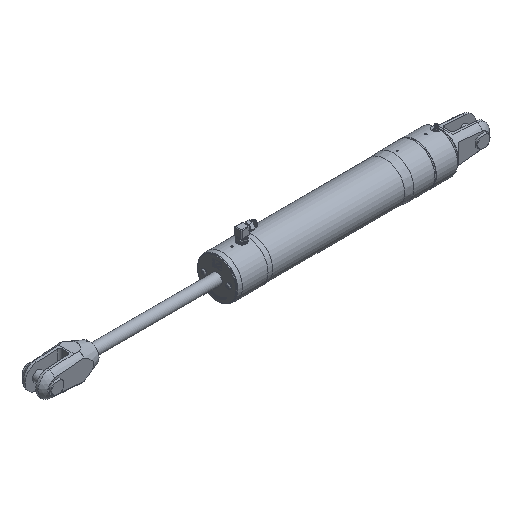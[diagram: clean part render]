
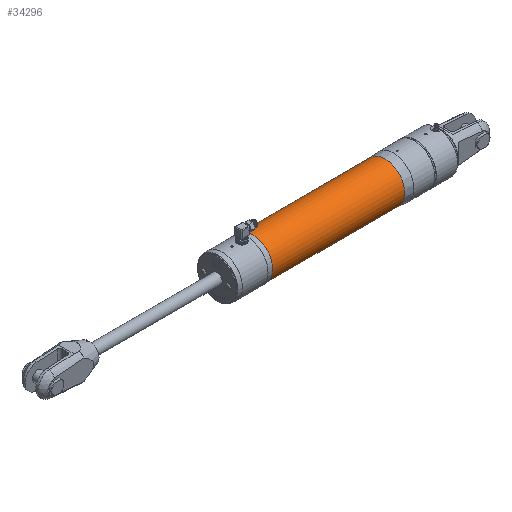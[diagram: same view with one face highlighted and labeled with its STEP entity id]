
A CAD part, isometric view. The second image highlights one B-rep face of the part: STEP entity #34296.
In plain terms, the highlighted cylindrical face has radius 66.7 mm (diameter 133.4 mm), a full revolution.
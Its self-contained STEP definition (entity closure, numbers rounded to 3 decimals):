
#4814=LINE('',#62093,#7783);
#7783=VECTOR('',#41440,66.7);
#8088=CYLINDRICAL_SURFACE('',#35802,66.7);
#11463=FACE_OUTER_BOUND('',#13395,.T.);
#13395=EDGE_LOOP('',(#30545,#30546,#30547,#30548,#30549,#30550));
#13901=CIRCLE('',#35799,66.7);
#13902=CIRCLE('',#35800,66.7);
#13904=CIRCLE('',#35803,66.7);
#13905=CIRCLE('',#35804,66.7);
#16917=VERTEX_POINT('',#62085);
#16918=VERTEX_POINT('',#62087);
#16919=VERTEX_POINT('',#62092);
#16920=VERTEX_POINT('',#62094);
#21522=EDGE_CURVE('',#16918,#16917,#13901,.T.);
#21523=EDGE_CURVE('',#16917,#16918,#13902,.T.);
#21525=EDGE_CURVE('',#16917,#16919,#4814,.T.);
#21526=EDGE_CURVE('',#16920,#16919,#13904,.T.);
#21527=EDGE_CURVE('',#16919,#16920,#13905,.T.);
#30545=ORIENTED_EDGE('',*,*,#21522,.T.);
#30546=ORIENTED_EDGE('',*,*,#21525,.T.);
#30547=ORIENTED_EDGE('',*,*,#21526,.F.);
#30548=ORIENTED_EDGE('',*,*,#21527,.F.);
#30549=ORIENTED_EDGE('',*,*,#21525,.F.);
#30550=ORIENTED_EDGE('',*,*,#21523,.T.);
#34296=ADVANCED_FACE('',(#11463),#8088,.T.);
#35799=AXIS2_PLACEMENT_3D('',#62088,#41432,#41433);
#35800=AXIS2_PLACEMENT_3D('',#62089,#41434,#41435);
#35802=AXIS2_PLACEMENT_3D('',#62091,#41438,#41439);
#35803=AXIS2_PLACEMENT_3D('',#62095,#41441,#41442);
#35804=AXIS2_PLACEMENT_3D('',#62096,#41443,#41444);
#41432=DIRECTION('center_axis',(1.,0.,0.));
#41433=DIRECTION('ref_axis',(0.,0.,
-1.));
#41434=DIRECTION('center_axis',(1.,0.,0.));
#41435=DIRECTION('ref_axis',(0.,0.,
-1.));
#41438=DIRECTION('center_axis',(1.,0.,0.));
#41439=DIRECTION('ref_axis',(0.,0.,
1.));
#41440=DIRECTION('',(1.,0.,0.));
#41441=DIRECTION('center_axis',(1.,0.,0.));
#41442=DIRECTION('ref_axis',(0.,0.,
-1.));
#41443=DIRECTION('center_axis',(1.,0.,0.));
#41444=DIRECTION('ref_axis',(0.,0.,
-1.));
#62085=CARTESIAN_POINT('',(-531.234,0.,-66.7));
#62087=CARTESIAN_POINT('',(-531.234,0.,66.7));
#62088=CARTESIAN_POINT('Origin',(-531.234,0.,
0.));
#62089=CARTESIAN_POINT('Origin',(-531.234,0.,
0.));
#62091=CARTESIAN_POINT('Origin',(-310.274,0.,
0.));
#62092=CARTESIAN_POINT('',(-89.313,0.,-66.7));
#62093=CARTESIAN_POINT('',(-310.274,0.,-66.7));
#62094=CARTESIAN_POINT('',(-89.313,0.,66.7));
#62095=CARTESIAN_POINT('Origin',(-89.313,0.,
0.));
#62096=CARTESIAN_POINT('Origin',(-89.313,0.,
0.));
